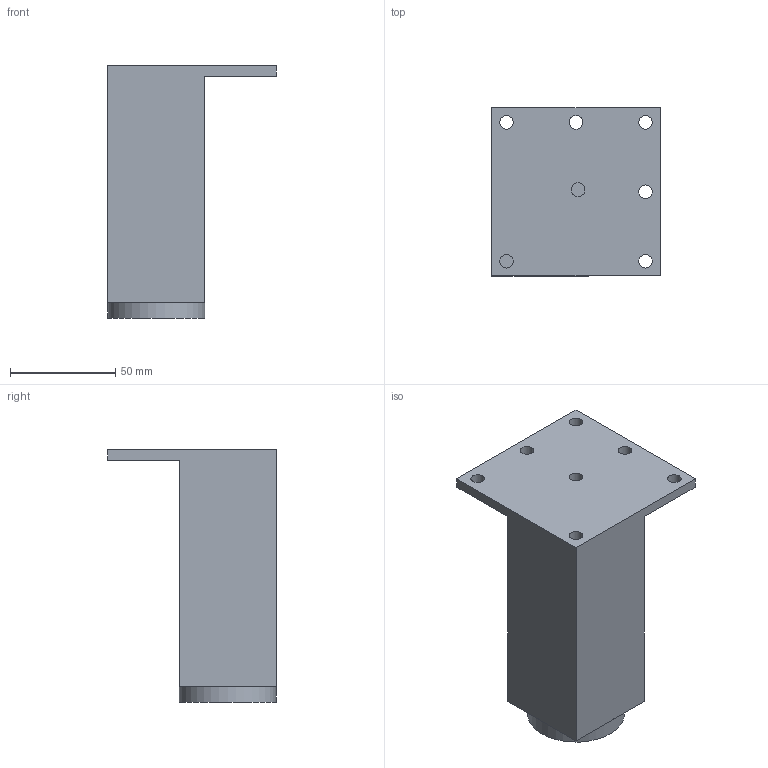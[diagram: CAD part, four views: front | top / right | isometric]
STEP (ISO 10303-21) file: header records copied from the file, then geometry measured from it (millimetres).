
FILE_DESCRIPTION( ( 'STEP AP214' ), '1' );
FILE_NAME( 'D:/Yug/2021/Desk_and_office_organisation/QC/9119544.stp', '2021-01-06T05:13:51', ( '' ), ( '' ), ' ', 'PARTsolutions', ' ' );
FILE_SCHEMA( ( 'AUTOMOTIVE_DESIGN { 1 0 10303 214 1 1 1 1 }' ) );
Length unit declared in the file: millimetre
Products named in the file (1): _9119544
Bounding box: 80 x 80 x 120 mm (x, y, z)
Volume: 270780 mm3; surface area: 35646.6 mm2
Topology: 1 solids, 1 shells, 23 faces, 52 edges, 33 vertices
Faces by surface type: plane 15, cylinder 8
Full cylindrical faces by diameter (mm): 6.48 x7, 46 x1
Entity records: 825 total; most frequent: DIRECTION 111, CARTESIAN_POINT 101, ORIENTED_EDGE 88, EDGE_CURVE 44, AXIS2_PLACEMENT_3D 43, EDGE_LOOP 43, VERTEX_POINT 33, FACE_OUTER_BOUND 31
